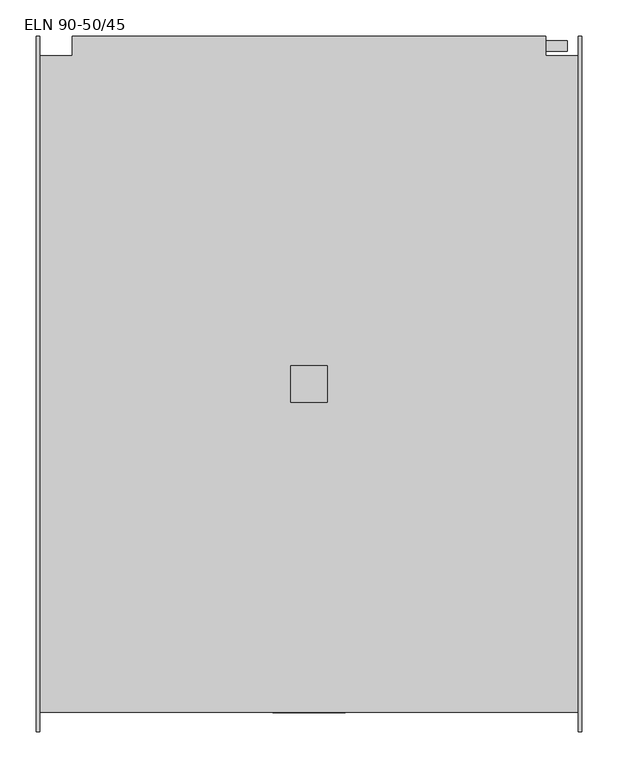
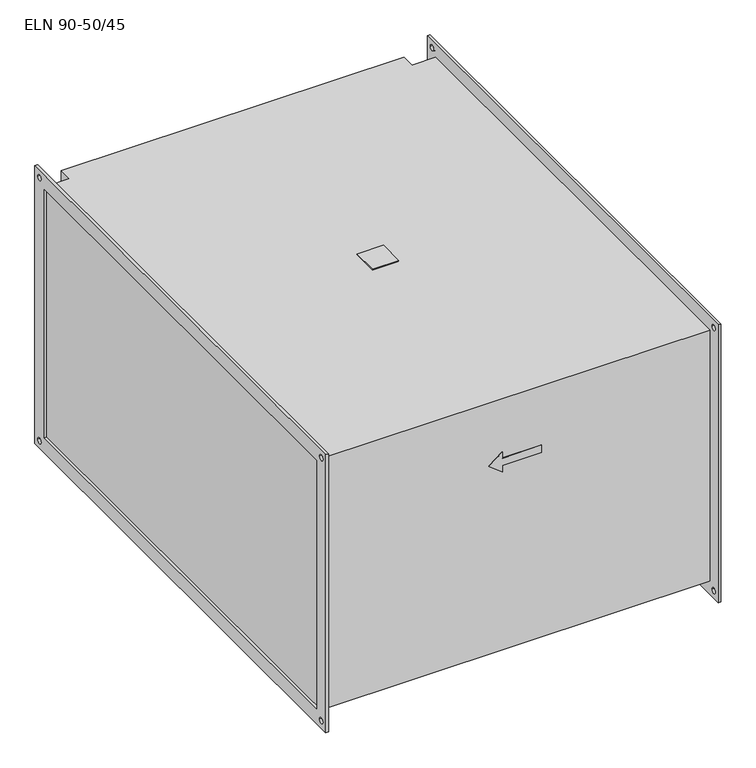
"""IFC4 building model written with IfcOpenShell, lengths in millimetres: proxy geometry, KORF_Нагреватель_Электрический_ELN : ELN 90-50/45."""

from ifc_helpers import new_model, si_unit, point, frame, frame_2d, origin, place, context, project, spatial, polyline, circle_curve, trimmed, segment, composite_curve, outline, extrude, source, transform, mapped, element, save


def eln_90_50_45_31dba81d(model_context):
    return source(origin(), model_context, "Body", "SweptSolid", [
        extrude(outline(polyline([(351.5, -25.0), (351.5, 25.0), (401.5, 25.0), (401.5, -25.0), (351.5, -25.0)])), frame((0.0, 0.0, 253.0), z_axis=(0.0, 0.0, 1.0), x_axis=(1.0, 0.0, 0.0)), (0.0, 0.0, 1.0), 2.0),
        extrude(outline(composite_curve([segment(trimmed(circle_curve(frame_2d((466.5, -126.5)), 7.5), [point((459.0, -126.5))], [point((474.0, -126.5))], False, "CARTESIAN"), True, "CONTINUOUS"), segment(trimmed(circle_curve(frame_2d((466.5, -126.5)), 7.5), [point((474.0, -126.5))], [point((459.0, -126.5))], False, "CARTESIAN"), True, "CONTINUOUS")], self_intersect=False)), frame((703.0, 0.0, 0.0), z_axis=(1.0, 0.0, 0.0), x_axis=(0.0, 1.0, 0.0)), (0.0, 0.0, 1.0), 30.0),
        extrude(outline(composite_curve([segment(trimmed(circle_curve(frame_2d((466.5, -106.5)), 7.5), [point((459.0, -106.5))], [point((474.0, -106.5))], False, "CARTESIAN"), True, "CONTINUOUS"), segment(trimmed(circle_curve(frame_2d((466.5, -106.5)), 7.5), [point((474.0, -106.5))], [point((459.0, -106.5))], False, "CARTESIAN"), True, "CONTINUOUS")], self_intersect=False)), frame((703.0, 0.0, 0.0), z_axis=(1.0, 0.0, 0.0), x_axis=(0.0, 1.0, 0.0)), (0.0, 0.0, 1.0), 30.0),
        extrude(outline(composite_curve([segment(trimmed(circle_curve(frame_2d((466.5, -146.5)), 7.5), [point((459.0, -146.5))], [point((474.0, -146.5))], False, "CARTESIAN"), True, "CONTINUOUS"), segment(trimmed(circle_curve(frame_2d((466.5, -146.5)), 7.5), [point((474.0, -146.5))], [point((459.0, -146.5))], False, "CARTESIAN"), True, "CONTINUOUS")], self_intersect=False)), frame((703.0, 0.0, 0.0), z_axis=(1.0, 0.0, 0.0), x_axis=(0.0, 1.0, 0.0)), (0.0, 0.0, 1.0), 30.0),
        extrude(outline(polyline([(146.5, 351.5), (126.5, 326.5), (106.5, 351.5), (119.0, 351.5), (119.0, 426.5), (134.0, 426.5), (134.0, 351.5), (146.5, 351.5)])), frame((0.0, -454.0, 0.0), z_axis=(0.0, 1.0, 0.0), x_axis=(0.0, 0.0, 1.0)), (0.0, 0.0, 1.0), 1.0),
        extrude(outline(polyline([(748.0, 453.0), (748.0, -453.0), (5.0, -453.0), (5.0, 453.0), (50.0, 453.0), (50.0, 480.0), (703.0, 480.0), (703.0, 453.0), (748.0, 453.0)])), frame((0.0, 0.0, -253.0), z_axis=(0.0, 0.0, 1.0), x_axis=(1.0, 0.0, 0.0)), (0.0, 0.0, 1.0), 506.0),
        extrude(outline(polyline([(-480.0, 280.0), (480.0, 280.0), (480.0, -280.0), (-480.0, -280.0), (-480.0, 280.0)]), holes=[polyline([(-450.0, 250.0), (-450.0, -250.0), (450.0, -250.0), (450.0, 250.0), (-450.0, 250.0)]), composite_curve([segment(trimmed(circle_curve(frame_2d((465.0, 265.0)), 5.5), [point((459.5, 265.0))], [point((470.5, 265.0))], True, "CARTESIAN"), True, "CONTINUOUS"), segment(trimmed(circle_curve(frame_2d((465.0, 265.0)), 5.5), [point((470.5, 265.0))], [point((459.5, 265.0))], True, "CARTESIAN"), True, "CONTINUOUS")], self_intersect=False), composite_curve([segment(trimmed(circle_curve(frame_2d((-465.0, 265.0)), 5.5), [point((-470.5, 265.0))], [point((-459.5, 265.0))], True, "CARTESIAN"), True, "CONTINUOUS"), segment(trimmed(circle_curve(frame_2d((-465.0, 265.0)), 5.5), [point((-459.5, 265.0))], [point((-470.5, 265.0))], True, "CARTESIAN"), True, "CONTINUOUS")], self_intersect=False), composite_curve([segment(trimmed(circle_curve(frame_2d((-465.0, -265.0)), 5.5), [point((-470.5, -265.0))], [point((-459.5, -265.0))], True, "CARTESIAN"), True, "CONTINUOUS"), segment(trimmed(circle_curve(frame_2d((-465.0, -265.0)), 5.5), [point((-459.5, -265.0))], [point((-470.5, -265.0))], True, "CARTESIAN"), True, "CONTINUOUS")], self_intersect=False), composite_curve([segment(trimmed(circle_curve(frame_2d((465.0, -265.0)), 5.5), [point((459.5, -265.0))], [point((470.5, -265.0))], True, "CARTESIAN"), True, "CONTINUOUS"), segment(trimmed(circle_curve(frame_2d((465.0, -265.0)), 5.5), [point((470.5, -265.0))], [point((459.5, -265.0))], True, "CARTESIAN"), True, "CONTINUOUS")], self_intersect=False)]), frame((748.0, 0.0, 0.0), z_axis=(1.0, 0.0, 0.0), x_axis=(0.0, 1.0, 0.0)), (0.0, 0.0, 1.0), 5.0),
        extrude(outline(polyline([(-480.0, 280.0), (480.0, 280.0), (480.0, -280.0), (-480.0, -280.0), (-480.0, 280.0)]), holes=[polyline([(-450.0, 250.0), (-450.0, -250.0), (450.0, -250.0), (450.0, 250.0), (-450.0, 250.0)]), composite_curve([segment(trimmed(circle_curve(frame_2d((465.0, 265.0)), 5.5), [point((459.5, 265.0))], [point((470.5, 265.0))], True, "CARTESIAN"), True, "CONTINUOUS"), segment(trimmed(circle_curve(frame_2d((465.0, 265.0)), 5.5), [point((470.5, 265.0))], [point((459.5, 265.0))], True, "CARTESIAN"), True, "CONTINUOUS")], self_intersect=False), composite_curve([segment(trimmed(circle_curve(frame_2d((-465.0, 265.0)), 5.5), [point((-470.5, 265.0))], [point((-459.5, 265.0))], True, "CARTESIAN"), True, "CONTINUOUS"), segment(trimmed(circle_curve(frame_2d((-465.0, 265.0)), 5.5), [point((-459.5, 265.0))], [point((-470.5, 265.0))], True, "CARTESIAN"), True, "CONTINUOUS")], self_intersect=False), composite_curve([segment(trimmed(circle_curve(frame_2d((-465.0, -265.0)), 5.5), [point((-470.5, -265.0))], [point((-459.5, -265.0))], True, "CARTESIAN"), True, "CONTINUOUS"), segment(trimmed(circle_curve(frame_2d((-465.0, -265.0)), 5.5), [point((-459.5, -265.0))], [point((-470.5, -265.0))], True, "CARTESIAN"), True, "CONTINUOUS")], self_intersect=False), composite_curve([segment(trimmed(circle_curve(frame_2d((465.0, -265.0)), 5.5), [point((459.5, -265.0))], [point((470.5, -265.0))], True, "CARTESIAN"), True, "CONTINUOUS"), segment(trimmed(circle_curve(frame_2d((465.0, -265.0)), 5.5), [point((470.5, -265.0))], [point((459.5, -265.0))], True, "CARTESIAN"), True, "CONTINUOUS")], self_intersect=False)]), frame((0.0, 0.0, 0.0), z_axis=(1.0, 0.0, 0.0), x_axis=(0.0, 1.0, 0.0)), (0.0, 0.0, 1.0), 5.0),
    ])


if __name__ == "__main__":
    model = new_model("IFC4")
    model_context = context("Model", 3, world=origin())
    ifc_project = project(units=[si_unit("LENGTHUNIT", "METRE", prefix="MILLI")], contexts=[model_context])
    site = spatial("IfcSite", under=ifc_project)
    building = spatial("IfcBuilding", under=site)
    placement = place(None, origin())
    eln_90_50_45_shape = eln_90_50_45_31dba81d(model_context)
    element("IfcBuildingElementProxy", 1, Name="KORF_Нагреватель_Электрический_ELN : ELN 90-50/45", ObjectType="KORF_Нагреватель_Электрический_ELN : ELN 90-50/45", at=placement, inside=building, context=model_context, shape_type="MappedRepresentation", body=[
        mapped(eln_90_50_45_shape, transform((0.0, 0.0, 0.0), x_axis=(1.0, 0.0, 0.0), y_axis=(0.0, 1.0, 0.0), z_axis=(0.0, 0.0, 1.0))),
    ])
    save(model, "model.ifc")
